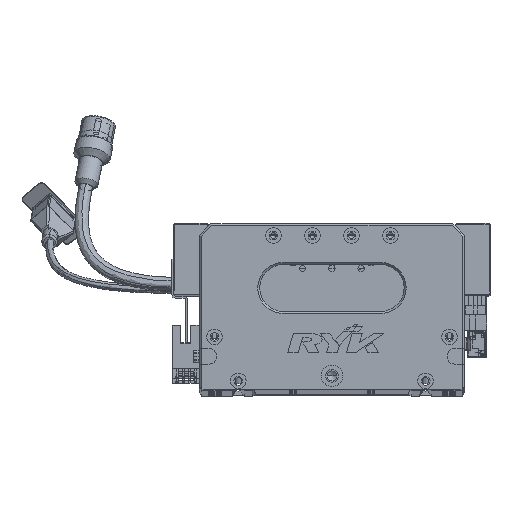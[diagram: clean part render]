
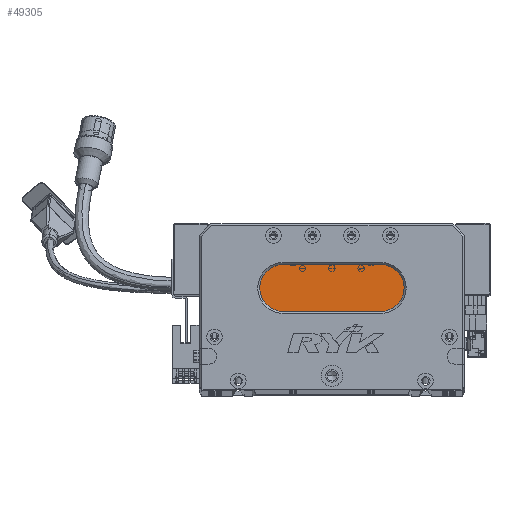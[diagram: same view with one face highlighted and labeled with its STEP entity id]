
A CAD part, top view. The second image highlights one B-rep face of the part: STEP entity #49305.
In plain terms, the highlighted planar face has unit normal (0, 0, 1) as drawn and (0, 0, -1) by its records, which use the part's own axes.
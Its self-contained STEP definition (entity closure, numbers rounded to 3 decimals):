
#1774 = AXIS2_PLACEMENT_3D ( 'NONE', #103446, #95774, #52341 ) ;
#4244 = DIRECTION ( 'NONE',  ( -1., 0., 0. ) ) ;
#7609 = EDGE_CURVE ( 'NONE', #107711, #48736, #96445, .T. ) ;
#8998 = AXIS2_PLACEMENT_3D ( 'NONE', #11513, #60794, #87429 ) ;
#10364 = CARTESIAN_POINT ( 'NONE',  ( 93., 52., 13. ) ) ;
#11513 = CARTESIAN_POINT ( 'NONE',  ( 43., 52., 13. ) ) ;
#14667 = CARTESIAN_POINT ( 'NONE',  ( 31., 52., 13. ) ) ;
#16219 = LINE ( 'NONE', #47358, #89323 ) ;
#19430 = DIRECTION ( 'NONE',  ( -1., 0., 0. ) ) ;
#24943 = EDGE_CURVE ( 'NONE', #67763, #46025, #33335, .T. ) ;
#25008 = CARTESIAN_POINT ( 'NONE',  ( 93., 64., 13. ) ) ;
#25243 = ORIENTED_EDGE ( 'NONE', *, *, #7609, .T. ) ;
#26712 = DIRECTION ( 'NONE',  ( 0., 0., -1. ) ) ;
#26805 = DIRECTION ( 'NONE',  ( 1., 0., 0. ) ) ;
#27571 = DIRECTION ( 'NONE',  ( 0., 0., -1. ) ) ;
#33335 = CIRCLE ( 'NONE', #63249, 12. ) ;
#34888 = EDGE_CURVE ( 'NONE', #60928, #107711, #89604, .T. ) ;
#37575 = ORIENTED_EDGE ( 'NONE', *, *, #24943, .T. ) ;
#45807 = CARTESIAN_POINT ( 'NONE',  ( 93., 52., 13. ) ) ;
#46025 = VERTEX_POINT ( 'NONE', #74562 ) ;
#47134 = EDGE_LOOP ( 'NONE', ( #37575, #101823, #106978, #25243, #48498 ) ) ;
#47358 = CARTESIAN_POINT ( 'NONE',  ( 93., 40., 13. ) ) ;
#48498 = ORIENTED_EDGE ( 'NONE', *, *, #97245, .T. ) ;
#48736 = VERTEX_POINT ( 'NONE', #96344 ) ;
#49305 = ADVANCED_FACE ( 'NONE', ( #88381 ), #78315, .T. ) ;
#49701 = AXIS2_PLACEMENT_3D ( 'NONE', #45807, #27571, #4244 ) ;
#52341 = DIRECTION ( 'NONE',  ( -1., 0., 0. ) ) ;
#54916 = VECTOR ( 'NONE', #26805, 1000. ) ;
#55423 = EDGE_CURVE ( 'NONE', #46025, #60928, #16219, .T. ) ;
#60088 = CARTESIAN_POINT ( 'NONE',  ( 93., 64., 13. ) ) ;
#60794 = DIRECTION ( 'NONE',  ( 0., 0., -1. ) ) ;
#60928 = VERTEX_POINT ( 'NONE', #103512 ) ;
#63249 = AXIS2_PLACEMENT_3D ( 'NONE', #10364, #26712, #19430 ) ;
#67763 = VERTEX_POINT ( 'NONE', #25008 ) ;
#74562 = CARTESIAN_POINT ( 'NONE',  ( 93., 40., 13. ) ) ;
#78315 = PLANE ( 'NONE',  #49701 ) ;
#80596 = DIRECTION ( 'NONE',  ( -1., 0., 0. ) ) ;
#87429 = DIRECTION ( 'NONE',  ( -1., 0., 0. ) ) ;
#88381 = FACE_OUTER_BOUND ( 'NONE', #47134, .T. ) ;
#89323 = VECTOR ( 'NONE', #80596, 1000. ) ;
#89604 = CIRCLE ( 'NONE', #1774, 12. ) ;
#95774 = DIRECTION ( 'NONE',  ( 0., 0., -1. ) ) ;
#96344 = CARTESIAN_POINT ( 'NONE',  ( 43., 64., 13. ) ) ;
#96445 = CIRCLE ( 'NONE', #8998, 12. ) ;
#96723 = LINE ( 'NONE', #60088, #54916 ) ;
#97245 = EDGE_CURVE ( 'NONE', #48736, #67763, #96723, .T. ) ;
#101823 = ORIENTED_EDGE ( 'NONE', *, *, #55423, .T. ) ;
#103446 = CARTESIAN_POINT ( 'NONE',  ( 43., 52., 13. ) ) ;
#103512 = CARTESIAN_POINT ( 'NONE',  ( 43., 40., 13. ) ) ;
#106978 = ORIENTED_EDGE ( 'NONE', *, *, #34888, .T. ) ;
#107711 = VERTEX_POINT ( 'NONE', #14667 ) ;
